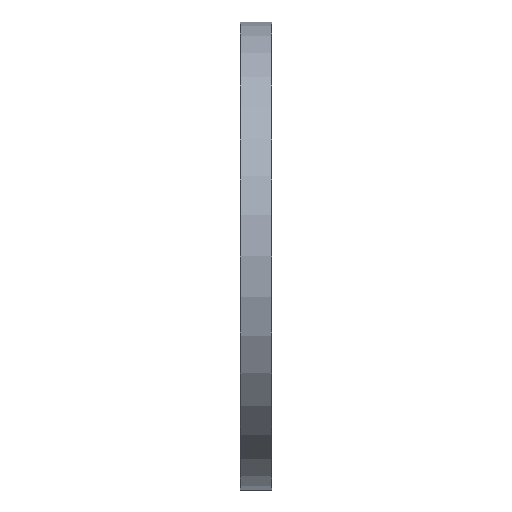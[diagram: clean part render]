
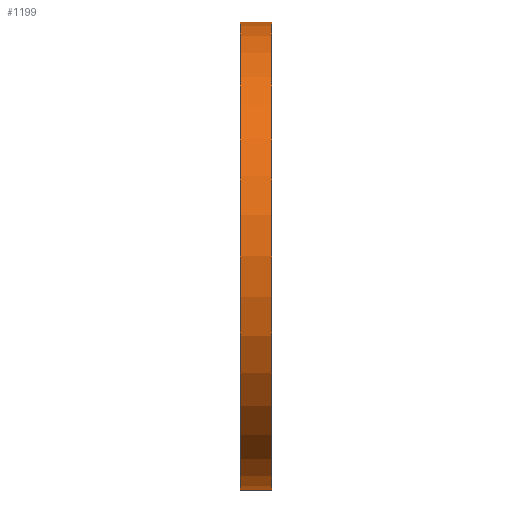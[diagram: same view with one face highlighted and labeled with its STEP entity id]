
A CAD part, left-side view. The second image highlights one B-rep face of the part: STEP entity #1199.
In plain terms, the highlighted cylindrical face has radius 22 mm (diameter 44 mm), a partial arc.
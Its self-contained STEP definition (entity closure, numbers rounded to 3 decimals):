
#110 = CARTESIAN_POINT ( 'NONE',  ( 0., 3., 0. ) ) ;
#138 = DIRECTION ( 'NONE',  ( 0., 0., -1. ) ) ;
#157 = ORIENTED_EDGE ( 'NONE', *, *, #1721, .F. ) ;
#163 = CIRCLE ( 'NONE', #1072, 22. ) ;
#337 = CARTESIAN_POINT ( 'NONE',  ( 0., -21., -22. ) ) ;
#392 = CARTESIAN_POINT ( 'NONE',  ( 0., 3., 22. ) ) ;
#434 = DIRECTION ( 'NONE',  ( 0., 0., -1. ) ) ;
#442 = VERTEX_POINT ( 'NONE', #813 ) ;
#446 = AXIS2_PLACEMENT_3D ( 'NONE', #1552, #1722, #1700 ) ;
#813 = CARTESIAN_POINT ( 'NONE',  ( 0., 3., -22. ) ) ;
#927 = ORIENTED_EDGE ( 'NONE', *, *, #1474, .T. ) ;
#996 = ORIENTED_EDGE ( 'NONE', *, *, #1646, .T. ) ;
#1027 = CYLINDRICAL_SURFACE ( 'NONE', #1793, 22. ) ;
#1059 = VERTEX_POINT ( 'NONE', #1411 ) ;
#1072 = AXIS2_PLACEMENT_3D ( 'NONE', #110, #1846, #434 ) ;
#1084 = VERTEX_POINT ( 'NONE', #392 ) ;
#1101 = DIRECTION ( 'NONE',  ( 0., -1., 0. ) ) ;
#1106 = EDGE_CURVE ( 'NONE', #1084, #1059, #1205, .T. ) ;
#1111 = VECTOR ( 'NONE', #1101, 1000. ) ;
#1199 = ADVANCED_FACE ( 'NONE', ( #1779 ), #1027, .T. ) ;
#1205 = LINE ( 'NONE', #1235, #1111 ) ;
#1235 = CARTESIAN_POINT ( 'NONE',  ( 0., -21., 22. ) ) ;
#1304 = DIRECTION ( 'NONE',  ( 0., -1., 0. ) ) ;
#1310 = CIRCLE ( 'NONE', #446, 22. ) ;
#1325 = CARTESIAN_POINT ( 'NONE',  ( 0., 0., -22. ) ) ;
#1335 = DIRECTION ( 'NONE',  ( 0., -1., 0. ) ) ;
#1358 = ORIENTED_EDGE ( 'NONE', *, *, #1106, .F. ) ;
#1411 = CARTESIAN_POINT ( 'NONE',  ( 0., 0., 22. ) ) ;
#1418 = CARTESIAN_POINT ( 'NONE',  ( 0., -21., 0. ) ) ;
#1465 = LINE ( 'NONE', #337, #1638 ) ;
#1474 = EDGE_CURVE ( 'NONE', #442, #1790, #1465, .T. ) ;
#1552 = CARTESIAN_POINT ( 'NONE',  ( 0., 0., 0. ) ) ;
#1638 = VECTOR ( 'NONE', #1335, 1000. ) ;
#1646 = EDGE_CURVE ( 'NONE', #1084, #442, #163, .T. ) ;
#1700 = DIRECTION ( 'NONE',  ( 0., 0., -1. ) ) ;
#1721 = EDGE_CURVE ( 'NONE', #1059, #1790, #1310, .T. ) ;
#1722 = DIRECTION ( 'NONE',  ( 0., -1., 0. ) ) ;
#1772 = EDGE_LOOP ( 'NONE', ( #1358, #996, #927, #157 ) ) ;
#1779 = FACE_OUTER_BOUND ( 'NONE', #1772, .T. ) ;
#1790 = VERTEX_POINT ( 'NONE', #1325 ) ;
#1793 = AXIS2_PLACEMENT_3D ( 'NONE', #1418, #1304, #138 ) ;
#1846 = DIRECTION ( 'NONE',  ( 0., -1., 0. ) ) ;
